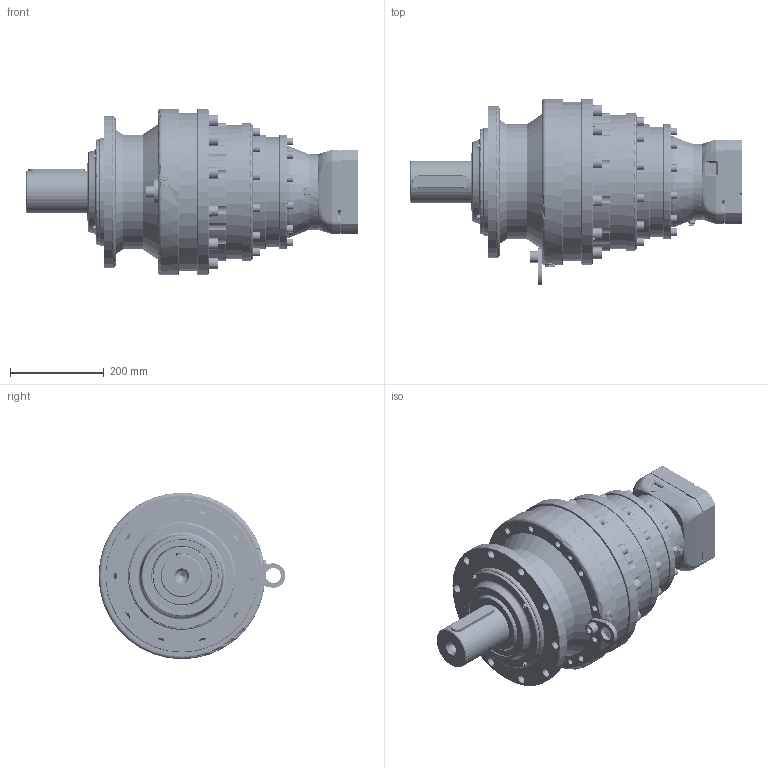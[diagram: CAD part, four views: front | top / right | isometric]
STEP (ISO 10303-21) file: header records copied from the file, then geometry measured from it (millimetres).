
FILE_DESCRIPTION (( 'STEP AP203' ), '1' );
FILE_NAME ('HS355L3-120-P2-S2-V1-FI-42-113-114.3-200-M12.STEP', '2026-05-09T01:29:03', ( '' ), ( '' ), 'SwSTEP 2.0', 'SolidWorks 2020', '' );
FILE_SCHEMA (( 'CONFIG_CONTROL_DESIGN' ));
Products named in the file (1): HS355L3-120-P2-S2-V1-FI-42-113-114.3-200-M12
Bounding box: 707.5 x 398.48 x 355 mm (x, y, z)
Volume: 14955388 mm3; surface area: 2511673.7 mm2
Topology: 126 solids, 126 shells, 5776 faces, 14986 edges, 9691 vertices
Faces by surface type: plane 2616, cylinder 1555, bspline 776, cone 465, torus 284, sphere 80
Entity records: 232274 total; most frequent: CARTESIAN_POINT 94918, ORIENTED_EDGE 29780, DIRECTION 25994, EDGE_CURVE 14890, VERTEX_POINT 9691, AXIS2_PLACEMENT_3D 9238, LINE 7518, VECTOR 7518
